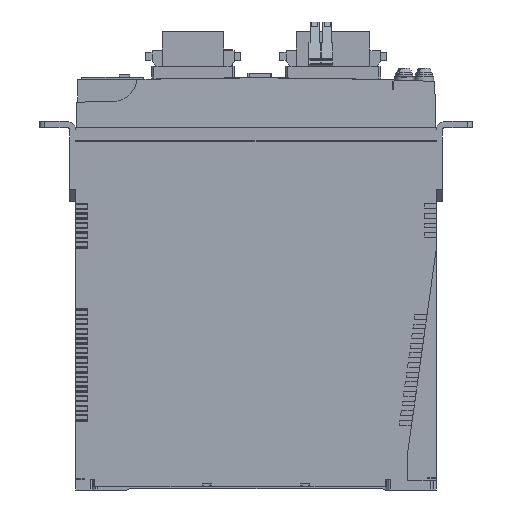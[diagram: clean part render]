
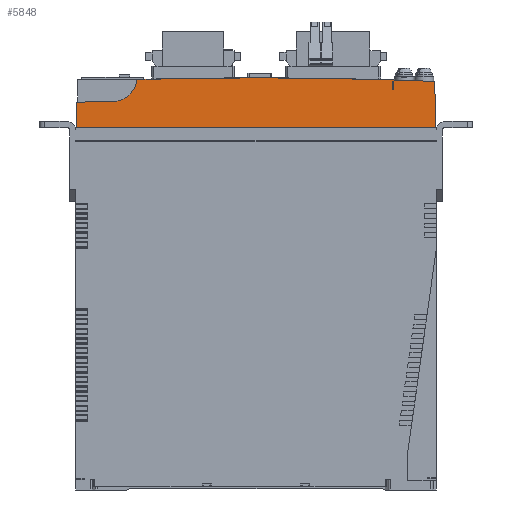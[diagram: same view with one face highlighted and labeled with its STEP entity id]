
A CAD part, left-side view. The second image highlights one B-rep face of the part: STEP entity #5848.
In plain terms, the highlighted planar face has unit normal (-1, 0, 0.018).
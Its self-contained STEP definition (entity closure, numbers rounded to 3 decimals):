
#5848 = ADVANCED_FACE( '', ( #14233 ), #14234, .T. );
#14233 = FACE_OUTER_BOUND( '', #25445, .T. );
#14234 = PLANE( '', #25446 );
#25445 = EDGE_LOOP( '', ( #43203, #43204, #43205, #43206, #43207, #43208, #43209, #43210, #43211, #43212, #43213 ) );
#25446 = AXIS2_PLACEMENT_3D( '', #43214, #43215, #43216 );
#43203 = ORIENTED_EDGE( '', *, *, #72637, .T. );
#43204 = ORIENTED_EDGE( '', *, *, #72638, .T. );
#43205 = ORIENTED_EDGE( '', *, *, #69573, .T. );
#43206 = ORIENTED_EDGE( '', *, *, #70795, .T. );
#43207 = ORIENTED_EDGE( '', *, *, #72639, .T. );
#43208 = ORIENTED_EDGE( '', *, *, #72640, .T. );
#43209 = ORIENTED_EDGE( '', *, *, #67264, .F. );
#43210 = ORIENTED_EDGE( '', *, *, #72641, .T. );
#43211 = ORIENTED_EDGE( '', *, *, #68570, .T. );
#43212 = ORIENTED_EDGE( '', *, *, #72642, .F. );
#43213 = ORIENTED_EDGE( '', *, *, #68999, .F. );
#43214 = CARTESIAN_POINT( '', ( -41.844, 150., 0. ) );
#43215 = DIRECTION( '', ( -1., 0., 0.017 ) );
#43216 = DIRECTION( '', ( 0.017, 0., 1. ) );
#67264 = EDGE_CURVE( '', #80897, #80899, #80900, .T. );
#68570 = EDGE_CURVE( '', #83212, #83213, #83214, .T. );
#68999 = EDGE_CURVE( '', #83995, #83997, #83998, .T. );
#69573 = EDGE_CURVE( '', #84999, #85000, #85001, .T. );
#70795 = EDGE_CURVE( '', #85000, #87055, #87056, .T. );
#72637 = EDGE_CURVE( '', #83995, #89972, #89973, .T. );
#72638 = EDGE_CURVE( '', #89972, #84999, #89974, .T. );
#72639 = EDGE_CURVE( '', #87055, #89975, #89976, .T. );
#72640 = EDGE_CURVE( '', #89975, #80899, #89977, .T. );
#72641 = EDGE_CURVE( '', #80897, #83212, #89978, .T. );
#72642 = EDGE_CURVE( '', #83997, #83213, #89979, .T. );
#80897 = VERTEX_POINT( '', #100886 );
#80899 = VERTEX_POINT( '', #100889 );
#80900 = LINE( '', #100890, #100891 );
#83212 = VERTEX_POINT( '', #104070 );
#83213 = VERTEX_POINT( '', #104071 );
#83214 = ELLIPSE( '', #104072, 1856.252, 1855.969 );
#83995 = VERTEX_POINT( '', #105204 );
#83997 = VERTEX_POINT( '', #105207 );
#83998 = LINE( '', #105208, #105209 );
#84999 = VERTEX_POINT( '', #106585 );
#85000 = VERTEX_POINT( '', #106586 );
#85001 = LINE( '', #106587, #106588 );
#87055 = VERTEX_POINT( '', #109375 );
#87056 = ELLIPSE( '', #109376, 0.5, 0.5 );
#89972 = VERTEX_POINT( '', #113399 );
#89973 = LINE( '', #113400, #113401 );
#89974 = LINE( '', #113402, #113403 );
#89975 = VERTEX_POINT( '', #113404 );
#89976 = ELLIPSE( '', #113405, 1856.252, 1855.969 );
#89977 = LINE( '', #113406, #113407 );
#89978 = LINE( '', #113408, #113409 );
#89979 = ELLIPSE( '', #113410, 10.152, 10.15 );
#100886 = CARTESIAN_POINT( '', ( -41.931, 18.07, -5. ) );
#100889 = CARTESIAN_POINT( '', ( -41.931, 18., -5. ) );
#100890 = CARTESIAN_POINT( '', ( -41.931, 17.5, -5. ) );
#100891 = VECTOR( '', #127491, 1000. );
#104070 = CARTESIAN_POINT( '', ( -41.859, 18.07, -0.873 ) );
#104071 = CARTESIAN_POINT( '', ( -41.855, 124.563, -0.662 ) );
#104072 = AXIS2_PLACEMENT_3D( '', #129111, #129112, #129113 );
#105204 = CARTESIAN_POINT( '', ( -42.02, 149.52, -10.094 ) );
#105207 = CARTESIAN_POINT( '', ( -42.016, 134.524, -9.878 ) );
#105208 = CARTESIAN_POINT( '', ( -42.016, 134.502, -9.878 ) );
#105209 = VECTOR( '', #129775, 1000. );
#106585 = CARTESIAN_POINT( '', ( -42.204, 0.296, -20.65 ) );
#106586 = CARTESIAN_POINT( '', ( -41.878, 0.622, -1.963 ) );
#106587 = CARTESIAN_POINT( '', ( -41.852, 0.648, -0.491 ) );
#106588 = VECTOR( '', #130475, 1000. );
#109375 = CARTESIAN_POINT( '', ( -41.869, 1.102, -1.472 ) );
#109376 = AXIS2_PLACEMENT_3D( '', #131962, #131963, #131964 );
#113399 = CARTESIAN_POINT( '', ( -42.204, 149.704, -20.65 ) );
#113400 = CARTESIAN_POINT( '', ( -42.178, 149.678, -19.172 ) );
#113401 = VECTOR( '', #134085, 1000. );
#113402 = CARTESIAN_POINT( '', ( -42.204, 150., -20.65 ) );
#113403 = VECTOR( '', #134086, 1000. );
#113404 = CARTESIAN_POINT( '', ( -41.859, 18., -0.875 ) );
#113405 = AXIS2_PLACEMENT_3D( '', #134087, #134088, #134089 );
#113406 = CARTESIAN_POINT( '', ( -41.931, 18., -5.01 ) );
#113407 = VECTOR( '', #134090, 1000. );
#113408 = CARTESIAN_POINT( '', ( -41.928, 18.07, -4.862 ) );
#113409 = VECTOR( '', #134091, 1000. );
#113410 = AXIS2_PLACEMENT_3D( '', #134092, #134093, #134094 );
#127491 = DIRECTION( '', ( 0., -1., 0. ) );
#129111 = CARTESIAN_POINT( '', ( -74.24, 75., -1855.969 ) );
#129112 = DIRECTION( '', ( -1., 0., 0.017 ) );
#129113 = DIRECTION( '', ( -0.017, 0., -1. ) );
#129775 = DIRECTION( '', ( 0., -1., 0.014 ) );
#130475 = DIRECTION( '', ( 0.017, 0.017, 1. ) );
#131962 = CARTESIAN_POINT( '', ( -41.878, 1.122, -1.971 ) );
#131963 = DIRECTION( '', ( -1., 0., 0.017 ) );
#131964 = DIRECTION( '', ( -0.017, 0., -1. ) );
#134085 = DIRECTION( '', ( -0.017, 0.017, -1. ) );
#134086 = DIRECTION( '', ( 0., -1., 0. ) );
#134087 = CARTESIAN_POINT( '', ( -74.24, 75., -1855.969 ) );
#134088 = DIRECTION( '', ( -1., 0., 0.017 ) );
#134089 = DIRECTION( '', ( -0.017, 0., -1. ) );
#134090 = DIRECTION( '', ( -0.017, 0., -1. ) );
#134091 = DIRECTION( '', ( 0.017, 0., 1. ) );
#134092 = CARTESIAN_POINT( '', ( -41.839, 134.67, 0.271 ) );
#134093 = DIRECTION( '', ( -1., 0., 0.017 ) );
#134094 = DIRECTION( '', ( -0.017, 0., -1. ) );
